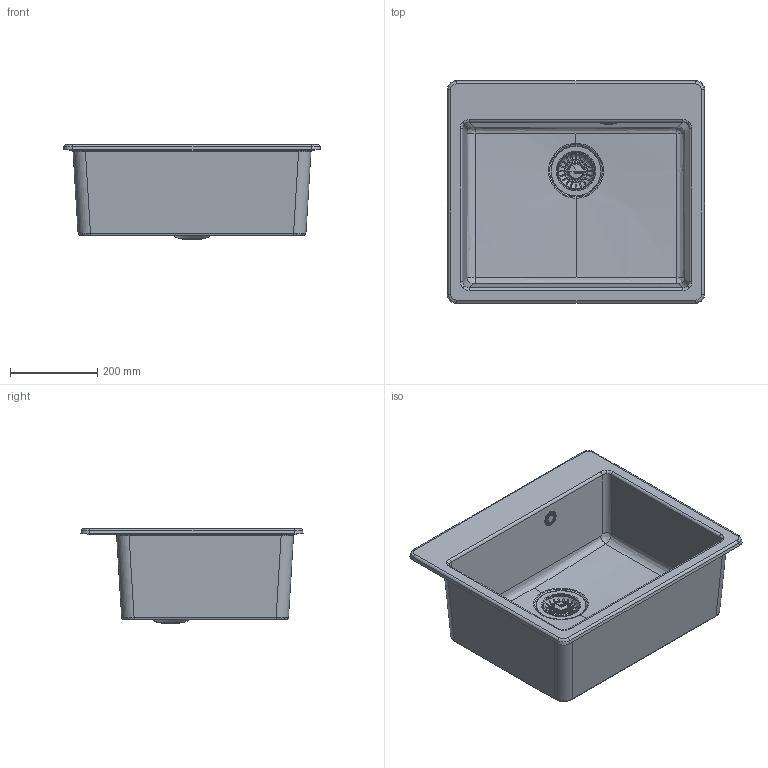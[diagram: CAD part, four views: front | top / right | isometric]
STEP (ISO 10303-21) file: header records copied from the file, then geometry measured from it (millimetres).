
FILE_DESCRIPTION(/* description */ (''),/* implementation_level */ '2;1');
FILE_NAME(/* name */ '3D001_Sinks_MythosX_MYK-610-52-FTL',/* time_stamp */ '2026-07-06T14:39:36+02:00',/* author */ (''),/* organization */ (''),/* preprocessor_version */ 'ST-DEVELOPER v19.2',/* originating_system */ 'Rhino 8.31',/* authorisation */ '');
FILE_SCHEMA (('CONFIG_CONTROL_DESIGN'));
Length unit declared in the file: millimetre
Products named in the file (1): Document
Bounding box: 590 x 510 x 217.87 mm (x, y, z)
Surface area: 1310731 mm2
Topology: 1 solids, 6 shells, 1443 faces, 3825 edges, 2311 vertices
Faces by surface type: bspline 684, plane 481, cylinder 278
Full cylindrical faces by diameter (mm): 8 x1, 11 x1, 12.6 x1, 13.743 x1, 25 x1, 31 x1, 36 x1, 47 x1, 84 x1
Entity records: 82317 total; most frequent: CARTESIAN_POINT 50821, ORIENTED_EDGE 7506, DIRECTION 4563, EDGE_CURVE 3759, AXIS2_PLACEMENT_3D 2661, VERTEX_POINT 2309, CIRCLE 1899, TRIMMED_CURVE 1881
